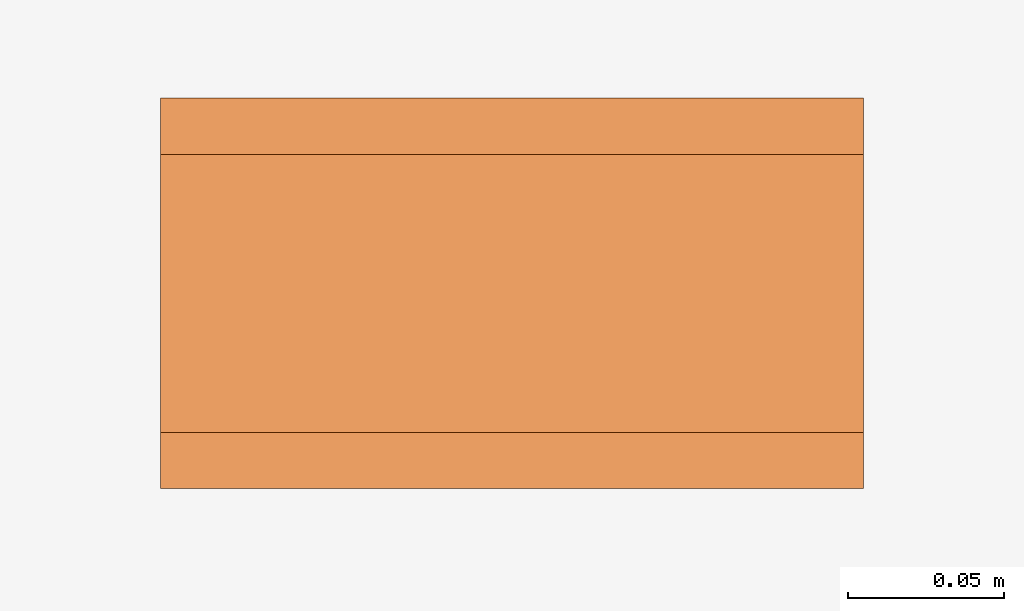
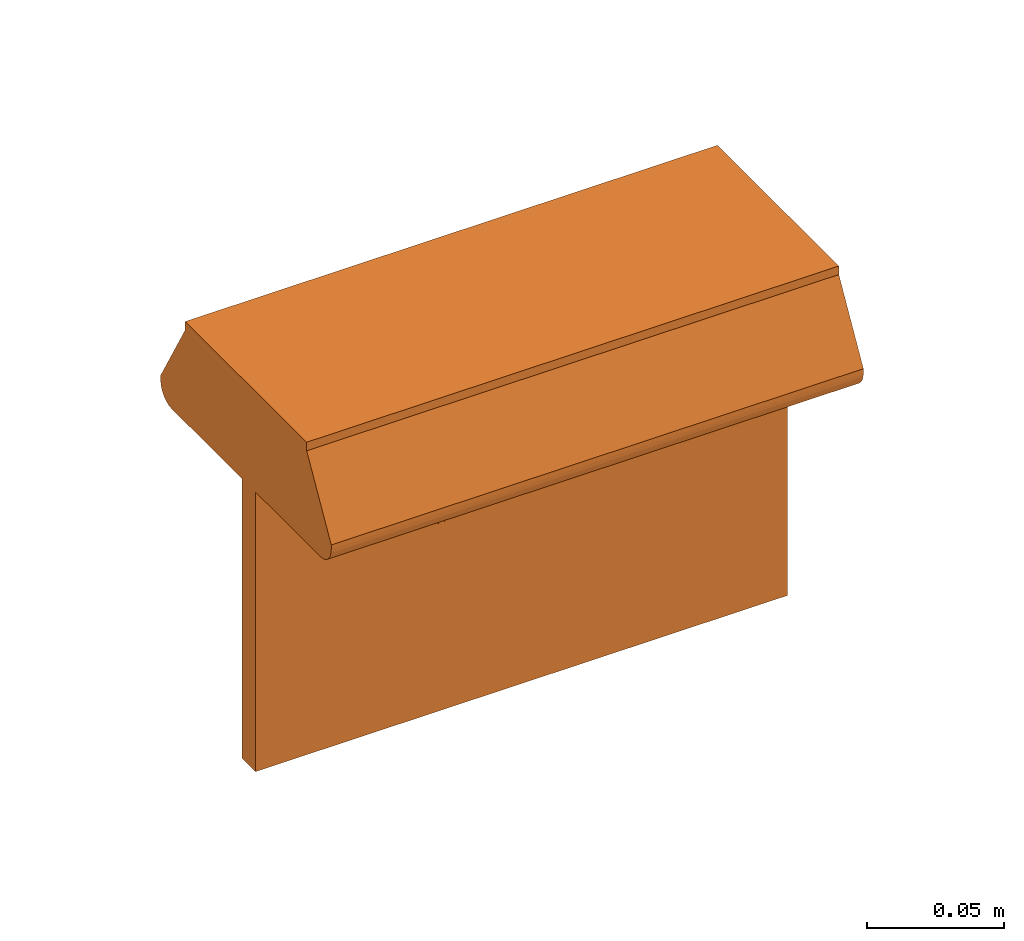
# One storey, part 53 of 197: 1 proxy.
"""IFC2X3 building model written with IfcOpenShell, lengths in metres."""

from ifc_helpers import new_model, entity, si_unit, converted_unit, direction, frame, frame_2d, origin, place, context, subcontext, project, spatial, polyline, circle_curve, parameter, trimmed, segment, composite_curve, circle, outline, extrude, source, transform, mapped, material, material_list, type_object, type_shapes, element, save


model = new_model("IFC2X3")

# Units and contexts
model_context = context("Model", 3, precision=1e-05, world=origin(), true_north=direction((6.123031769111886e-17, 1.0)))
body_context = subcontext(model_context, "Body", "Model", "MODEL_VIEW")
ifc_project = project(units=[si_unit("LENGTHUNIT", "METRE"), converted_unit("PLANEANGLEUNIT", "DEGREE", entity("IfcPlaneAngleMeasure", 0.017453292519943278), si_unit("PLANEANGLEUNIT", "RADIAN"), dimensions=[0, 0, 0, 0, 0, 0, 0]), si_unit("AREAUNIT", "SQUARE_METRE")], contexts=[model_context])

# Site, building, storey
site_placement = place(None, origin())
site = spatial("IfcSite", under=ifc_project, at=site_placement, Name="Default", CompositionType="ELEMENT")
building_placement = place(site_placement, origin())
building = spatial("IfcBuilding", under=site, at=building_placement, CompositionType="ELEMENT")
storey_placement = place(building_placement, origin())
storey = spatial("IfcBuildingStorey", under=building, at=storey_placement, Name="Niveau 0", CompositionType="ELEMENT", Elevation=0.0)

# Proxy
ifc_material_1 = material(Name="BETCE-ENVELOPPE-BLANC")
ifc_material_2 = material(Name="BETCE-ETIQUETTE-VERT 0-193-0")
ifc_material_3 = material(Name="BETCE-VITRE BAES-BLEU")
ifc_material_list = material_list([ifc_material_1, ifc_material_2, ifc_material_3])
building_element_proxy_type = type_object("IfcBuildingElementProxyType", Name="Eclairage de sécurité saillie plafond:DROITE", PredefinedType="NOTDEFINED", material=ifc_material_list)
shared_shape = source(origin(), body_context, "Body", "SweptSolid", [
    extrude(outline(polyline([(-0.028959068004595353, -0.03330292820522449), (0.012231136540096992, -0.033302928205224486), (0.029966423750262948, -0.012907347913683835), (0.0031032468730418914, -0.012907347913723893), (0.0324050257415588, 0.020789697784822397), (0.016088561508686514, 0.034977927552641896), (-0.013213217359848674, 0.0012808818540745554), (-0.016943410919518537, 0.027883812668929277), (-0.03467869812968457, 0.00748823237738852), (-0.028959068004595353, -0.03330292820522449)])), frame((0.0454022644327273, -0.004999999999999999, -0.10750000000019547), z_axis=(0.0, 1.0, 0.0), x_axis=(-0.6561787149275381, 0.0, -0.7546055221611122)), (0.0, 0.0, 1.0), 0.01),
    extrude(outline(composite_curve([segment(polyline([(0.006609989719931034, -0.02643378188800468), (0.019898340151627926, -0.026433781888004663)]), True, "CONTINUOUS"), segment(polyline([(0.019898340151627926, -0.026433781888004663), (0.019898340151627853, 0.031123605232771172)]), True, "CONTINUOUS"), segment(polyline([(0.019898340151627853, 0.031123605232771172), (-0.03171408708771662, 0.031123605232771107)]), True, "CONTINUOUS"), segment(polyline([(-0.03171408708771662, 0.031123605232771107), (-0.03171408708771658, -0.0021607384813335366)]), True, "CONTINUOUS"), segment(polyline([(-0.03171408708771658, -0.0021607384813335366), (-0.025875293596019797, -0.002160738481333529)]), True, "CONTINUOUS"), segment(polyline([(-0.025875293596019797, -0.002160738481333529), (-0.019301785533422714, 0.007251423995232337)]), True, "CONTINUOUS"), segment(trimmed(circle_curve(frame_2d((-0.009885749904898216, -0.0017012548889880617), x_axis=(-1.0, 0.0)), 0.012992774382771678), [parameter(269.9999999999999)], [parameter(316.44499806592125)], True, "PARAMETER"), False, "CONTINUOUS"), segment(polyline([(-0.009885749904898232, 0.011291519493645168), (0.004993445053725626, 0.011291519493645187)]), True, "CONTINUOUS"), segment(trimmed(circle_curve(frame_2d((0.00481319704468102, 0.005807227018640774), x_axis=(-1.0, 0.0)), 0.0054872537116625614), [parameter(222.5187306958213)], [parameter(268.1175814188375)], True, "PARAMETER"), False, "CONTINUOUS"), segment(polyline([(0.008857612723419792, 0.00951568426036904), (0.016122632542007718, -0.001516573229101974)]), True, "CONTINUOUS"), segment(trimmed(circle_curve(frame_2d((0.013690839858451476, -0.0027344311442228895), x_axis=(-1.0, 0.0)), 0.0027197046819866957), [parameter(122.67226684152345)], [parameter(206.6020127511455)], True, "PARAMETER"), False, "CONTINUOUS"), segment(trimmed(circle_curve(frame_2d((0.013690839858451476, -0.0027344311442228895), x_axis=(-1.0, 0.0)), 0.0027197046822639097), [parameter(38.74252094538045)], [parameter(122.67226683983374)], True, "PARAMETER"), False, "CONTINUOUS"), segment(polyline([(0.01156956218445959, -0.004436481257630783), (0.005218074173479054, 0.00515324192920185)]), True, "CONTINUOUS"), segment(polyline([(0.005218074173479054, 0.00515324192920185), (-0.0031319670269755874, 0.005153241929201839)]), True, "CONTINUOUS"), segment(polyline([(-0.0031319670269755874, 0.005153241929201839), (0.0027752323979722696, -0.006212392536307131)]), True, "CONTINUOUS"), segment(trimmed(circle_curve(frame_2d((-0.009425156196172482, -0.013099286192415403), x_axis=(-1.0, 0.0)), 0.014009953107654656), [parameter(186.02489841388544)], [parameter(209.4439241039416)], True, "PARAMETER"), False, "CONTINUOUS"), segment(polyline([(0.004507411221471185, -0.011628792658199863), (0.006013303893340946, -0.02589675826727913)]), True, "CONTINUOUS"), segment(trimmed(circle_curve(frame_2d((0.006609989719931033, -0.025833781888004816), x_axis=(-1.0, 0.0)), 0.0006000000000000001), [parameter(6.024898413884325)], [parameter(90.00000000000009)], True, "PARAMETER"), True, "CONTINUOUS")], self_intersect=False), holes=[composite_curve([segment(trimmed(circle_curve(frame_2d((-0.015960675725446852, 0.017960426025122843), x_axis=(-1.0, 0.0)), 0.005405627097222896), [parameter(270.0000000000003)], [parameter(359.9999999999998)], True, "PARAMETER"), False, "CONTINUOUS"), segment(trimmed(circle_curve(frame_2d((-0.015960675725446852, 0.017960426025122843), x_axis=(-1.0, 0.0)), 0.005405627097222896), [parameter(180.0)], [parameter(269.9999999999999)], True, "PARAMETER"), False, "CONTINUOUS"), segment(trimmed(circle_curve(frame_2d((-0.015960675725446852, 0.017960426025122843), x_axis=(-1.0, 0.0)), 0.005405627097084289), [parameter(89.99999999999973)], [parameter(180.00000000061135)], True, "PARAMETER"), False, "CONTINUOUS"), segment(trimmed(circle_curve(frame_2d((-0.015960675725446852, 0.017960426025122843), x_axis=(-1.0, 0.0)), 0.005405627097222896), [parameter(359.9999999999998)], [parameter(89.99999999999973)], True, "PARAMETER"), False, "CONTINUOUS")], self_intersect=False)]), frame((-0.049701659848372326, -0.004999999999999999, -0.09879549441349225), z_axis=(0.0, 1.0, 0.0), x_axis=(-1.0, 0.0, 0.0)), (0.0, 0.0, 1.0), 0.01),
    extrude(outline(composite_curve([segment(polyline([(-0.010138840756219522, -0.03194487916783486), (-0.002486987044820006, -0.031944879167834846)]), True, "CONTINUOUS"), segment(polyline([(-0.002486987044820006, -0.031944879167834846), (-0.002486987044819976, -0.026012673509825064)]), True, "CONTINUOUS"), segment(polyline([(-0.002486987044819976, -0.026012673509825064), (0.010432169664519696, 0.005661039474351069)]), True, "CONTINUOUS"), segment(trimmed(circle_curve(frame_2d((0.006850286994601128, 0.007662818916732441), x_axis=(-1.0, 0.0)), 0.004103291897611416), [parameter(150.80081810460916)], [parameter(205.83024310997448)], True, "PARAMETER"), True, "CONTINUOUS"), segment(polyline([(0.010543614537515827, 0.009450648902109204), (0.005368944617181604, 0.02014056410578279)]), True, "CONTINUOUS"), segment(trimmed(circle_curve(frame_2d((0.004900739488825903, 0.019779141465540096), x_axis=(-1.0, 0.0)), 0.0005914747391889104), [parameter(217.66570843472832)], [parameter(322.3342915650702)], True, "PARAMETER"), True, "CONTINUOUS"), segment(polyline([(0.004432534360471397, 0.02014056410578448), (-0.001727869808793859, 0.01216006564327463)]), True, "CONTINUOUS"), segment(trimmed(circle_curve(frame_2d((-0.0037977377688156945, 0.013841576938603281), x_axis=(-1.0, 0.0)), 0.0026668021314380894), [parameter(90.00000000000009)], [parameter(140.91041687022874)], True, "PARAMETER"), False, "CONTINUOUS"), segment(polyline([(-0.003797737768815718, 0.011174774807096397), (-0.010138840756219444, 0.01117477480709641)]), True, "CONTINUOUS"), segment(polyline([(-0.010138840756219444, 0.01117477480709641), (-0.010138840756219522, -0.03194487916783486)]), True, "CONTINUOUS")], self_intersect=False)), frame((-0.028126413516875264, -0.005, -0.11835202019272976), z_axis=(0.0, 1.0, 0.0), x_axis=(-1.0, 0.0, 0.0)), (0.0, 0.0, 1.0), 0.01),
    extrude(outline(composite_curve([segment(polyline([(0.012626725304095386, -0.01699261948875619), (0.01858668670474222, -0.016992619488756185)]), True, "CONTINUOUS"), segment(polyline([(0.01858668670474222, -0.016992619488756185), (0.018586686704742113, 0.02021814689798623)]), True, "CONTINUOUS"), segment(polyline([(0.018586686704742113, 0.02021814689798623), (0.00013314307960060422, 0.020218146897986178)]), True, "CONTINUOUS"), segment(polyline([(0.00013314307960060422, 0.020218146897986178), (0.00013314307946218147, 0.0026748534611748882)]), True, "CONTINUOUS"), segment(trimmed(circle_curve(frame_2d((-0.002665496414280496, 0.0026748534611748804), x_axis=(0.0, -1.0)), 0.002798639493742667), [parameter(17.686751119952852)], [parameter(90.00000000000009)], True, "PARAMETER"), False, "CONTINUOUS"), segment(polyline([(-0.0018152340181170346, 8.500732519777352e-06), (-0.015914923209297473, -0.002442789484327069)]), True, "CONTINUOUS"), segment(trimmed(circle_curve(frame_2d((-0.015810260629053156, -0.0030448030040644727), x_axis=(0.0, -1.0)), 0.0006110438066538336), [parameter(189.862534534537)], [parameter(269.9999999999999)], True, "PARAMETER"), True, "CONTINUOUS"), segment(trimmed(circle_curve(frame_2d((-0.015810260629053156, -0.0030448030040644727), x_axis=(0.0, -1.0)), 0.0006110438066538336), [parameter(269.9999999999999)], [parameter(350.1374654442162)], True, "PARAMETER"), True, "CONTINUOUS"), segment(polyline([(-0.015914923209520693, -0.0036468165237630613), (0.012626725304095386, -0.01699261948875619)]), True, "CONTINUOUS")], self_intersect=False)), frame((-0.04938185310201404, -0.004999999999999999, -0.13171021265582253), z_axis=(0.0, 1.0, 0.0), x_axis=(0.0, 0.0, -1.0)), (0.0, 0.0, 1.0), 0.01),
    extrude(outline(polyline([(-0.05249999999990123, -0.10250000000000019), (0.052499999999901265, -0.10250000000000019), (0.052499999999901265, 0.10250000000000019), (-0.05249999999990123, 0.10250000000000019), (-0.05249999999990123, -0.10250000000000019)]), holes=[composite_curve([segment(polyline([(0.042796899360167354, 0.01798757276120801), (-0.0003227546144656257, 0.01798757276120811)]), True, "CONTINUOUS"), segment(polyline([(-0.0003227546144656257, 0.01798757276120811), (-0.0003227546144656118, 0.02432867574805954)]), True, "CONTINUOUS"), segment(trimmed(circle_curve(frame_2d((-0.0029895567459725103, 0.02432867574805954), x_axis=(0.0, -1.0)), 0.0026668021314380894), [parameter(90.00000000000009)], [parameter(140.9104168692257)], True, "PARAMETER"), True, "CONTINUOUS"), segment(polyline([(-0.0013080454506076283, 0.026398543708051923), (-0.00928854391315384, 0.03255894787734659)]), True, "CONTINUOUS"), segment(trimmed(circle_curve(frame_2d((-0.008927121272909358, 0.03302715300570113), x_axis=(0.0, -1.0)), 0.0005914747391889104), [parameter(217.6657084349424)], [parameter(322.33429156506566)], True, "PARAMETER"), False, "CONTINUOUS"), segment(polyline([(-0.009288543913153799, 0.033495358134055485), (0.001401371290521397, 0.038670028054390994)]), True, "CONTINUOUS"), segment(trimmed(circle_curve(frame_2d((0.003189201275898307, 0.034976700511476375), x_axis=(0.0, -1.0)), 0.004103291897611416), [parameter(150.80081810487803)], [parameter(205.830243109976)], True, "PARAMETER"), False, "CONTINUOUS"), segment(polyline([(0.005190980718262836, 0.03855858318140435), (0.03686469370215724, 0.02563942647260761)]), True, "CONTINUOUS"), segment(polyline([(0.03686469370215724, 0.02563942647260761), (0.042796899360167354, 0.025639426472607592)]), True, "CONTINUOUS"), segment(polyline([(0.042796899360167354, 0.025639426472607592), (0.042796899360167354, 0.01798757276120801)]), True, "CONTINUOUS")], self_intersect=False), composite_curve([segment(polyline([(0.04279689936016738, 0.03238923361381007), (0.03683693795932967, 0.03238923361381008)]), True, "CONTINUOUS"), segment(polyline([(0.03683693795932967, 0.03238923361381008), (0.008295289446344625, 0.045735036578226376)]), True, "CONTINUOUS"), segment(trimmed(circle_curve(frame_2d((0.008399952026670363, 0.04633705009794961), x_axis=(0.0, -1.0)), 0.0006110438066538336), [parameter(269.9999999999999)], [parameter(350.13746545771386)], True, "PARAMETER"), False, "CONTINUOUS"), segment(trimmed(circle_curve(frame_2d((0.008399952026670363, 0.04633705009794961), x_axis=(0.0, -1.0)), 0.0006110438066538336), [parameter(189.86253453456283)], [parameter(269.9999999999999)], True, "PARAMETER"), False, "CONTINUOUS"), segment(polyline([(0.008295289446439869, 0.04693906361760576), (0.022394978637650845, 0.04939035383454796)]), True, "CONTINUOUS"), segment(trimmed(circle_curve(frame_2d((0.02154471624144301, 0.05205670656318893), x_axis=(0.0, -1.0)), 0.002798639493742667), [parameter(17.68675112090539)], [parameter(89.99999999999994)], True, "PARAMETER"), True, "CONTINUOUS"), segment(polyline([(0.024343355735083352, 0.05205670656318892), (0.02434335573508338, 0.06960000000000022)]), True, "CONTINUOUS"), segment(polyline([(0.02434335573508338, 0.06960000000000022), (0.042796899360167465, 0.06960000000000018)]), True, "CONTINUOUS"), segment(polyline([(0.042796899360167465, 0.06960000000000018), (0.04279689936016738, 0.03238923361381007)]), True, "CONTINUOUS")], self_intersect=False), composite_curve([segment(trimmed(circle_curve(frame_2d((0.017129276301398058, 0.056311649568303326), x_axis=(0.0, -1.0)), 0.0006000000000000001), [parameter(6.024898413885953)], [parameter(90.00000000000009)], True, "PARAMETER"), False, "CONTINUOUS"), segment(polyline([(0.0171922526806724, 0.05571496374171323), (0.002924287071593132, 0.05420907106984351)]), True, "CONTINUOUS"), segment(trimmed(circle_curve(frame_2d((0.004394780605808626, 0.04027650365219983), x_axis=(0.0, -1.0)), 0.014009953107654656), [parameter(186.02489841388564)], [parameter(209.44392410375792)], True, "PARAMETER"), True, "CONTINUOUS"), segment(polyline([(-0.002492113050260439, 0.05247689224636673), (-0.013857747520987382, 0.046569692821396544)]), True, "CONTINUOUS"), segment(polyline([(-0.013857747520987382, 0.046569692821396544), (-0.013857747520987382, 0.05491973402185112)]), True, "CONTINUOUS"), segment(polyline([(-0.013857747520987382, 0.05491973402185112), (-0.004268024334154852, 0.06127122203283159)]), True, "CONTINUOUS"), segment(trimmed(circle_curve(frame_2d((-0.0059700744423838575, 0.0633924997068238), x_axis=(0.0, -1.0)), 0.0027197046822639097), [parameter(38.74252094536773)], [parameter(122.6722668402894)], True, "PARAMETER"), True, "CONTINUOUS"), segment(trimmed(circle_curve(frame_2d((-0.005970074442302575, 0.06339249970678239), x_axis=(0.0, -1.0)), 0.0027197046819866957), [parameter(122.67226684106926)], [parameter(206.602012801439)], True, "PARAMETER"), True, "CONTINUOUS"), segment(polyline([(-0.007187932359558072, 0.06582429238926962), (-0.018220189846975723, 0.05855927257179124)]), True, "CONTINUOUS"), segment(trimmed(circle_curve(frame_2d((-0.014511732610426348, 0.05451485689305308), x_axis=(0.0, -1.0)), 0.0054872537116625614), [parameter(222.51873069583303)], [parameter(268.1175814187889)], True, "PARAMETER"), True, "CONTINUOUS"), segment(polyline([(-0.019996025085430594, 0.05469510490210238), (-0.01999602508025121, 0.03981590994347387)]), True, "CONTINUOUS"), segment(trimmed(circle_curve(frame_2d((-0.007003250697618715, 0.03981590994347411), x_axis=(0.0, -1.0)), 0.012992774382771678), [parameter(269.9999999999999)], [parameter(316.4449980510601)], True, "PARAMETER"), True, "CONTINUOUS"), segment(polyline([(-0.015955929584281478, 0.030399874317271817), (-0.0065437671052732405, 0.02382636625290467)]), True, "CONTINUOUS"), segment(polyline([(-0.0065437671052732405, 0.02382636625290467), (-0.006543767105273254, 0.01798757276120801)]), True, "CONTINUOUS"), segment(polyline([(-0.006543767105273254, 0.01798757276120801), (-0.039828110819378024, 0.017987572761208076)]), True, "CONTINUOUS"), segment(polyline([(-0.039828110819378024, 0.017987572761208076), (-0.03982811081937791, 0.06960000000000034)]), True, "CONTINUOUS"), segment(polyline([(-0.03982811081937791, 0.06960000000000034), (0.017729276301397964, 0.06960000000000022)]), True, "CONTINUOUS"), segment(polyline([(0.017729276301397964, 0.06960000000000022), (0.017729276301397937, 0.056311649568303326)]), True, "CONTINUOUS")], self_intersect=False), polyline([(0.0, -0.0895351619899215), (-0.03108235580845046, -0.06250702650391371), (-0.031082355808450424, -0.03547889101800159), (-0.01081125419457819, -0.05310593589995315), (-0.01081125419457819, -0.008450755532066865), (0.010811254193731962, -0.008450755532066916), (0.010811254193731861, -0.053105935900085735), (0.031082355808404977, -0.035478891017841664), (0.031082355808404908, -0.06250702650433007), (0.0, -0.0895351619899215)])]), frame((0.0, -0.005, -0.10750000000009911), z_axis=(0.0, 1.0, 0.0), x_axis=(0.0, 0.0, -1.0)), (0.0, 0.0, 1.0), 0.01),
    extrude(circle(Radius=0.005405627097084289, at=frame_2d((3.660598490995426e-14, 3.465174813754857e-14), x_axis=(1.0, 0.0))), frame((-0.03374098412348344, -0.005, -0.08083506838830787), z_axis=(0.0, 1.0, 0.0), x_axis=(1.0, 0.0, 0.0)), (0.0, 0.0, 1.0), 0.01),
    extrude(outline(polyline([(-0.06250000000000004, -0.11175180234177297), (0.062499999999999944, -0.11175180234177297), (0.06249999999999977, -5.459731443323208e-05), (0.0625000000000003, 0.11324819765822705), (-0.06249999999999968, 0.11324819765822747), (-0.06250000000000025, -0.0029381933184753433), (-0.06250000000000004, -0.11175180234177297)]), holes=[polyline([(0.052499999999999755, 0.0013023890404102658), (0.05249999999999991, -0.10175180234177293), (-0.05250000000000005, -0.10175180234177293), (-0.05250000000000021, -0.0022597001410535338), (-0.05249999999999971, 0.10324819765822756), (0.05250000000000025, 0.10324819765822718), (0.052499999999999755, 0.0013023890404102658)])]), frame((-0.0007481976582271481, -0.005, -0.10750000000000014), z_axis=(0.0, 1.0, 0.0), x_axis=(0.0, 0.0, 1.0)), (0.0, 0.0, 1.0), 0.01),
    extrude(outline(composite_curve([segment(trimmed(circle_curve(frame_2d((-0.001999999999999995, -0.05449999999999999), x_axis=(1.0, 0.0)), 0.008), [parameter(269.9999999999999)], [parameter(0.0)], True, "PARAMETER"), True, "CONTINUOUS"), segment(polyline([(0.006000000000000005, -0.05449999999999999), (0.006000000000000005, 0.054500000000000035)]), True, "CONTINUOUS"), segment(trimmed(circle_curve(frame_2d((-0.001999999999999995, 0.05450000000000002), x_axis=(1.0, 0.0)), 0.008), [parameter(359.99999999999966)], [parameter(89.99999999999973)], True, "PARAMETER"), True, "CONTINUOUS"), segment(polyline([(-0.0019999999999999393, 0.06250000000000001), (-0.00399999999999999, 0.06250000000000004)]), True, "CONTINUOUS"), segment(polyline([(-0.00399999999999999, 0.06250000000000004), (-0.00399999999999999, -0.0625)]), True, "CONTINUOUS"), segment(polyline([(-0.00399999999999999, -0.0625), (-0.001999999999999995, -0.0625)]), True, "CONTINUOUS")], self_intersect=False)), frame((-0.1125, 0.0019999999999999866, -0.039), z_axis=(1.0, 0.0, 0.0), x_axis=(0.0, 0.0, -1.0)), (0.0, 0.0, 1.0), 0.22499999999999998),
    extrude(outline(polyline([(-0.06250000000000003, -0.02205897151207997), (0.06250000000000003, -0.02205897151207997), (0.044499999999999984, 0.00911794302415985), (0.044499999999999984, 0.012941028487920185), (-0.044499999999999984, 0.012941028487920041), (-0.04449999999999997, 0.009117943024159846), (-0.06250000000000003, -0.02205897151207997)])), frame((-0.11249999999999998, 0.002000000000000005, -0.012941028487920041), z_axis=(1.0, 0.0, 0.0), x_axis=(0.0, 1.0, 0.0)), (0.0, 0.0, 1.0), 0.225),
])
type_shapes(building_element_proxy_type, [shared_shape])
proxy_placement = place(storey_placement, frame((-487.6829728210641, 108.51998673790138, 1.4999999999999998)))
element("IfcBuildingElementProxy", 1, at=proxy_placement, inside=storey, type_object=building_element_proxy_type, material=ifc_material_list, Name="Eclairage de sécurité saillie plafond:DROITE", ObjectType="Eclairage de sécurité saillie plafond:DROITE", context=body_context, shape_type="MappedRepresentation", body=[
    mapped(shared_shape, transform((0.0, 0.0, 0.0), scale=1.0)),
])

save(model, "model.ifc")
